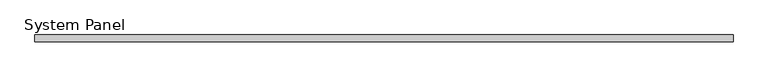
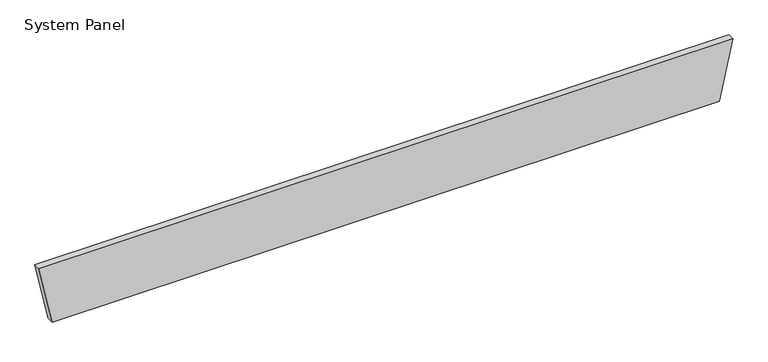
"""IFC4 building model written with IfcOpenShell, lengths in millimetres: plate geometry, System Panel : MetecnoPanel_125mm_Plain_Surfmist."""

from ifc_helpers import new_model, si_unit, frame, origin, place, context, project, spatial, polyline, outline, extrude, source, transform, mapped, element, save


def system_panel_1c91e0ad(model_context):
    return source(origin(), model_context, "Body", "SweptSolid", [
        extrude(outline(polyline([(0.0, -6000.0), (0.0, 6000.0), (1100.0, 6239.1323567), (1100.0, -6239.1323567), (0.0, -6000.0)])), frame((0.0, -125.0, 0.0), z_axis=(0.0, 1.0, 0.0), x_axis=(0.0, 0.0, 1.0)), (0.0, 0.0, 1.0), 125.0),
    ])


if __name__ == "__main__":
    model = new_model("IFC4")
    model_context = context("Model", 3, world=origin())
    ifc_project = project(units=[si_unit("LENGTHUNIT", "METRE", prefix="MILLI")], contexts=[model_context])
    site = spatial("IfcSite", under=ifc_project)
    building = spatial("IfcBuilding", under=site)
    placement = place(None, origin())
    system_panel_shape = system_panel_1c91e0ad(model_context)
    element("IfcPlate", 1, ObjectType="System Panel : MetecnoPanel_125mm_Plain_Surfmist", at=placement, inside=building, context=model_context, shape_type="MappedRepresentation", body=[
        mapped(system_panel_shape, transform((0.0, 0.0, 0.0), x_axis=(1.0, 0.0, 0.0), y_axis=(0.0, 1.0, 0.0), z_axis=(0.0, 0.0, 1.0))),
    ])
    save(model, "model.ifc")
